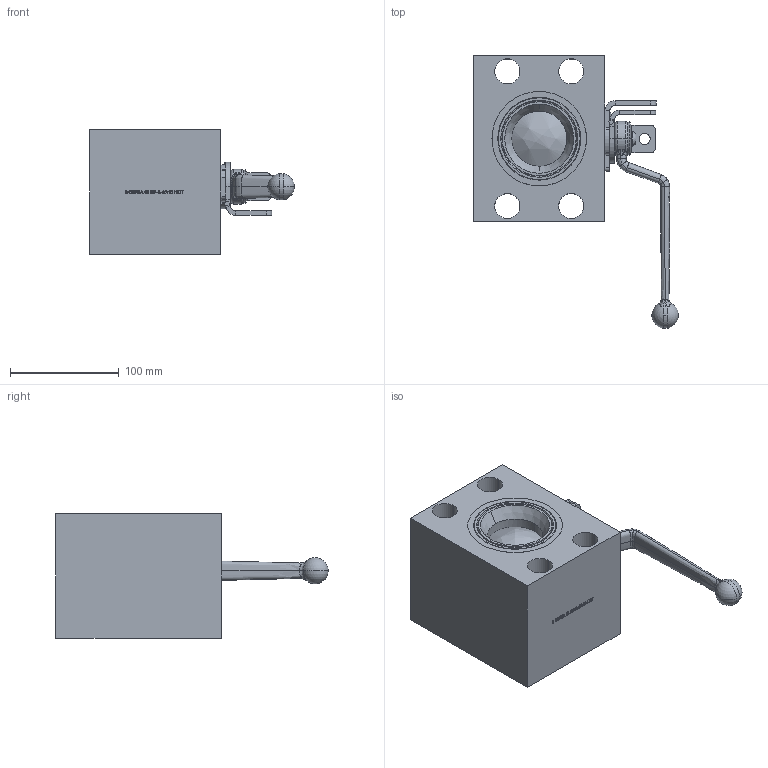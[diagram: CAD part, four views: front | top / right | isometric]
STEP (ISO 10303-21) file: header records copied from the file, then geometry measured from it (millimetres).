
FILE_DESCRIPTION (( 'STEP AP214' ), '1' );
FILE_NAME ('IBF-B-6240-NDT Closed~.STEP', '2026-02-20T16:05:58', ( '' ), ( '' ), 'SwSTEP 2.0', 'SolidWorks 2025', '' );
FILE_SCHEMA (( 'AUTOMOTIVE_DESIGN' ));
Length unit declared in the file: inch
Products named in the file (1): IBF-B-6240-NDT Closed~
Bounding box: 188.17 x 250.32 x 114.3 mm (x, y, z)
Volume: 1693307.2 mm3; surface area: 234583.6 mm2
Topology: 2 solids, 5 shells, 880 faces, 2414 edges, 1590 vertices
Faces by surface type: plane 469, bspline 222, cylinder 123, cone 32, torus 22, sphere 12
Entity records: 50216 total; most frequent: CARTESIAN_POINT 29612, ORIENTED_EDGE 4824, DIRECTION 3376, EDGE_CURVE 2412, VERTEX_POINT 1590, LINE 1228, VECTOR 1228, AXIS2_PLACEMENT_3D 1074
